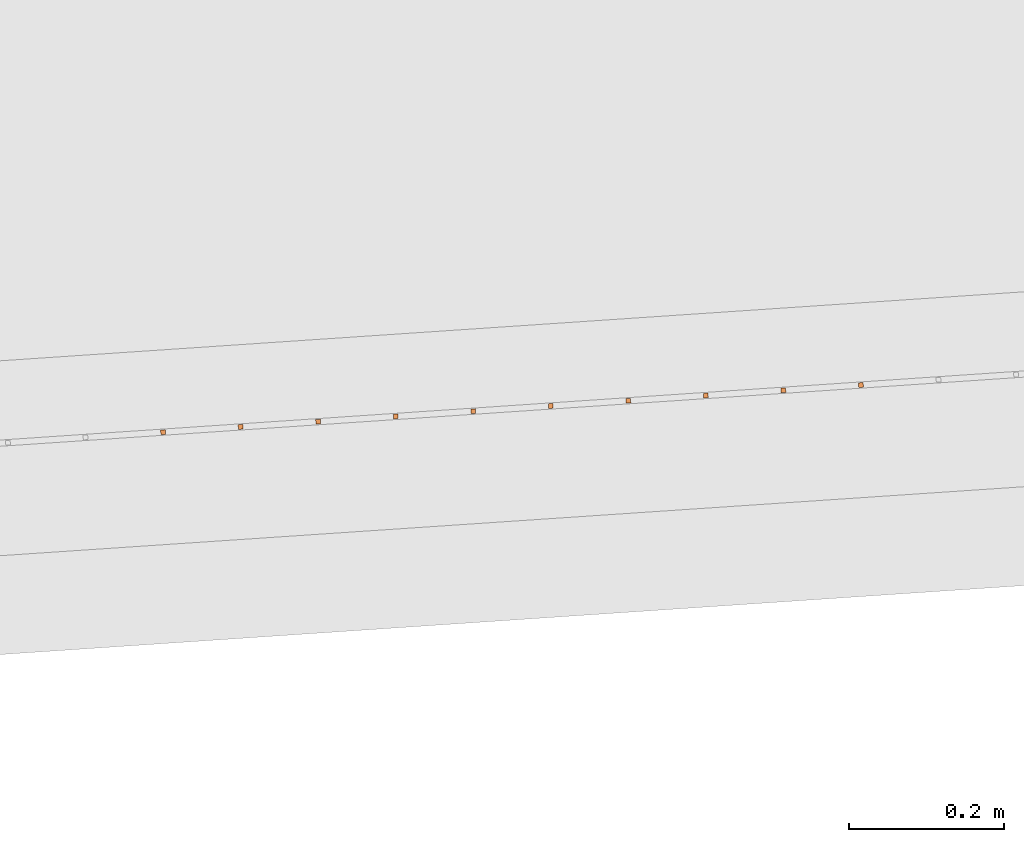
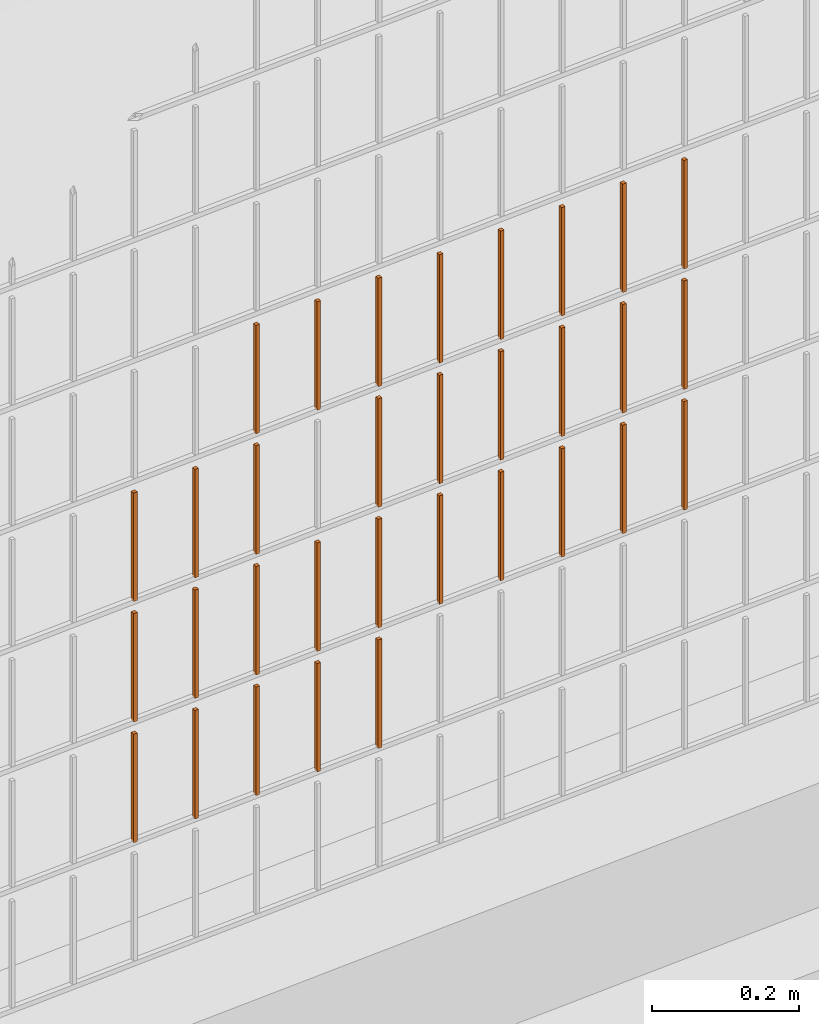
# One storey, part 331 of 1809: 32 proxies, 1 element without a shape of its own.
"""IFC2X3 building model written with IfcOpenShell, lengths in millimetres."""

from ifc_helpers import new_model, entity, si_unit, converted_unit, derived_unit, money_unit, direction, frame, origin_with_axes, place, context, subcontext, project, spatial, faceted_brep, source, transform, mapped, material, type_object, element, aggregate, save


model = new_model("IFC2X3")

# Units and contexts
model_context = context("Model", 3, precision=0.01, world=origin_with_axes(), true_north=direction((0.0, 1.0)))
body_context = subcontext(model_context, "Body", "Model", "MODEL_VIEW")
ifc_project = project(units=[si_unit("LENGTHUNIT", "METRE", prefix="MILLI"), si_unit("AREAUNIT", "SQUARE_METRE"), si_unit("VOLUMEUNIT", "CUBIC_METRE"), converted_unit("PLANEANGLEUNIT", "DEGREE", entity("IfcPlaneAngleMeasure", 0.0174532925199), si_unit("PLANEANGLEUNIT", "RADIAN"), dimensions=[0, 0, 0, 0, 0, 0, 0]), si_unit("SOLIDANGLEUNIT", "STERADIAN"), money_unit("EUR"), converted_unit("TIMEUNIT", "Year", entity("IfcTimeMeasure", 31556926.0), si_unit("TIMEUNIT", "SECOND"), dimensions=[0, 0, 1, 0, 0, 0, 0]), si_unit("MASSUNIT", "GRAM", prefix="KILO"), si_unit("THERMODYNAMICTEMPERATUREUNIT", "DEGREE_CELSIUS"), si_unit("LUMINOUSINTENSITYUNIT", "LUMEN"), si_unit("ENERGYUNIT", "JOULE", prefix="MEGA"), derived_unit("THERMALCONDUCTANCEUNIT", [(si_unit("POWERUNIT", "WATT"), 1), (si_unit("LENGTHUNIT", "METRE"), -1), (si_unit("THERMODYNAMICTEMPERATUREUNIT", "KELVIN"), -1)]), derived_unit("SPECIFICHEATCAPACITYUNIT", [(si_unit("ENERGYUNIT", "JOULE"), 1), (si_unit("MASSUNIT", "GRAM", prefix="KILO"), -1), (si_unit("THERMODYNAMICTEMPERATUREUNIT", "KELVIN"), -1)]), derived_unit("MASSDENSITYUNIT", [(si_unit("MASSUNIT", "GRAM", prefix="KILO"), 1), (si_unit("VOLUMEUNIT", "CUBIC_METRE"), -1)])], contexts=[model_context])

# Site, building, storey
site_placement = place(None, origin_with_axes())
site = spatial("IfcSite", under=ifc_project, at=site_placement, Name="Politse- ja Piirivalveameti ning Päästeameti ühishoone", CompositionType="ELEMENT")
building_placement = place(site_placement, origin_with_axes())
building = spatial("IfcBuilding", under=site, at=building_placement, Name="Politse- ja Piirivalveameti ning Päästeameti ühishoone", CompositionType="ELEMENT")
storey_placement = place(building_placement, origin_with_axes())
storey = spatial("IfcBuildingStorey", under=building, at=storey_placement, Name="Esimene korrus", CompositionType="ELEMENT", Elevation=0.0)

# Proxies
building_element_proxy_type_1 = type_object("IfcBuildingElementProxyType", Name="Railing Type", PredefinedType="NOTDEFINED")
proxy_1_placement = place(storey_placement, frame((89252.001212, -29183.4766571, 203.661247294), z_axis=(0.0, 0.0, 1.0), x_axis=(1.0, 0.0, 0.0)))
proxy_1 = element("IfcBuildingElementProxy", 1, at=proxy_1_placement, inside=storey, type_object=building_element_proxy_type_1, Name="PIIRDEAED")
ifc_material = material(Name="ET-03_Raud")
building_element_proxy_type_2 = type_object("IfcBuildingElementProxyType", Name="IfcBuildingElementProxy", PredefinedType="NOTDEFINED")
shared_shape_1 = source(origin_with_axes(), body_context, "Body", "Brep", [
    faceted_brep([(3.0, 3.0, -0.000752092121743), (-3.0, 3.0, -0.000752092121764), (-3.0, 3.0, 179.99926046), (3.0, 3.0, 179.99926046), (3.0, -3.0, 0.000752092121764), (-3.0, -3.0, 0.000752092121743), (-3.0, -3.0, 180.000764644), (3.0, -3.0, 180.000764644)], [[[0, 1, 2, 3]], [[0, 4, 5, 1]], [[1, 5, 6, 2]], [[3, 2, 6, 7]], [[4, 0, 3, 7]], [[5, 4, 7, 6]]]),
])
proxy_2_placement = place(proxy_1_placement, frame((-34049.1019761, -19597.6631034, 418.678914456), z_axis=(0.0, 0.0, 1.0), x_axis=(1.0, 0.0, 0.0)))
proxy_2 = element("IfcBuildingElementProxy", 2, at=proxy_2_placement, type_object=building_element_proxy_type_2, material=ifc_material, Name="BALUSTER - 001", context=body_context, shape_type="MappedRepresentation", body=[
    mapped(shared_shape_1, transform((0.0, 0.0, 0.0), x_axis=(-0.0673926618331, 0.997726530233, 0.0), y_axis=(-0.997726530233, -0.0673926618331, 0.0), z_axis=(0.0, 0.0, 1.0))),
])
proxy_3_placement = place(proxy_1_placement, frame((-34049.1019761, -19597.6631034, 618.678914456), z_axis=(0.0, 0.0, 1.0), x_axis=(1.0, 0.0, 0.0)))
proxy_3 = element("IfcBuildingElementProxy", 3, at=proxy_3_placement, type_object=building_element_proxy_type_2, material=ifc_material, Name="BALUSTER - 001", context=body_context, shape_type="MappedRepresentation", body=[
    mapped(shared_shape_1, transform((0.0, 0.0, 0.0), x_axis=(-0.0673926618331, 0.997726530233, 0.0), y_axis=(-0.997726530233, -0.0673926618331, 0.0), z_axis=(0.0, 0.0, 1.0))),
])
shared_shape_2 = source(origin_with_axes(), body_context, "Body", "Brep", [
    faceted_brep([(3.0, 3.0, -0.000752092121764), (-3.0, 3.0, -0.000752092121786), (-3.0, 3.0, 179.99926046), (3.0, 3.0, 179.99926046), (3.0, -3.0, 0.000752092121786), (-3.0, -3.0, 0.000752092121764), (-3.0, -3.0, 180.000764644), (3.0, -3.0, 180.000764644)], [[[0, 1, 2, 3]], [[0, 4, 5, 1]], [[1, 5, 6, 2]], [[3, 2, 6, 7]], [[4, 0, 3, 7]], [[5, 4, 7, 6]]]),
])
proxy_4_placement = place(proxy_1_placement, frame((-33650.011364, -19570.7060387, 418.779193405), z_axis=(0.0, 0.0, 1.0), x_axis=(1.0, 0.0, 0.0)))
proxy_4 = element("IfcBuildingElementProxy", 4, at=proxy_4_placement, type_object=building_element_proxy_type_2, material=ifc_material, Name="BALUSTER - 001", context=body_context, shape_type="MappedRepresentation", body=[
    mapped(shared_shape_2, transform((0.0, 0.0, 0.0), x_axis=(-0.0673926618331, 0.997726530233, 0.0), y_axis=(-0.997726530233, -0.0673926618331, 0.0), z_axis=(0.0, 0.0, 1.0))),
])
shared_shape_3 = source(origin_with_axes(), body_context, "Body", "Brep", [
    faceted_brep([(3.0, 3.0, -0.000752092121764), (-3.0, 3.0, -0.000752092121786), (-3.0, 3.0, 179.99926046), (3.0, 3.0, 179.99926046), (3.0, -3.0, 0.000752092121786), (-3.0, -3.0, 0.000752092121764), (-3.0, -3.0, 180.000764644), (3.0, -3.0, 180.000764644)], [[[0, 1, 2, 3]], [[0, 4, 5, 1]], [[1, 5, 6, 2]], [[3, 2, 6, 7]], [[4, 0, 3, 7]], [[5, 4, 7, 6]]]),
])
proxy_5_placement = place(proxy_1_placement, frame((-33650.011364, -19570.7060387, 618.779193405), z_axis=(0.0, 0.0, 1.0), x_axis=(1.0, 0.0, 0.0)))
proxy_5 = element("IfcBuildingElementProxy", 5, at=proxy_5_placement, type_object=building_element_proxy_type_2, material=ifc_material, Name="BALUSTER - 001", context=body_context, shape_type="MappedRepresentation", body=[
    mapped(shared_shape_3, transform((0.0, 0.0, 0.0), x_axis=(-0.0673926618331, 0.997726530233, 0.0), y_axis=(-0.997726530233, -0.0673926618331, 0.0), z_axis=(0.0, 0.0, 1.0))),
])
shared_shape_4 = source(origin_with_axes(), body_context, "Body", "Brep", [
    faceted_brep([(3.0, 3.0, -0.000752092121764), (-3.0, 3.0, -0.000752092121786), (-3.0, 3.0, 179.99926046), (3.0, 3.0, 179.99926046), (3.0, -3.0, 0.000752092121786), (-3.0, -3.0, 0.000752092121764), (-3.0, -3.0, 180.000764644), (3.0, -3.0, 180.000764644)], [[[0, 1, 2, 3]], [[0, 4, 5, 1]], [[1, 5, 6, 2]], [[3, 2, 6, 7]], [[4, 0, 3, 7]], [[5, 4, 7, 6]]]),
])
proxy_6_placement = place(proxy_1_placement, frame((-33650.011364, -19570.7060387, 818.779193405), z_axis=(0.0, 0.0, 1.0), x_axis=(1.0, 0.0, 0.0)))
proxy_6 = element("IfcBuildingElementProxy", 6, at=proxy_6_placement, type_object=building_element_proxy_type_2, material=ifc_material, Name="BALUSTER - 001", context=body_context, shape_type="MappedRepresentation", body=[
    mapped(shared_shape_4, transform((0.0, 0.0, 0.0), x_axis=(-0.0673926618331, 0.997726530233, 0.0), y_axis=(-0.997726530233, -0.0673926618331, 0.0), z_axis=(0.0, 0.0, 1.0))),
])
shared_shape_5 = source(origin_with_axes(), body_context, "Body", "Brep", [
    faceted_brep([(3.0, 3.0, -0.000752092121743), (-3.0, 3.0, -0.000752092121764), (-3.0, 3.0, 179.99926046), (3.0, 3.0, 179.99926046), (3.0, -3.0, 0.000752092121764), (-3.0, -3.0, 0.000752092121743), (-3.0, -3.0, 180.000764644), (3.0, -3.0, 180.000764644)], [[[0, 1, 2, 3]], [[0, 4, 5, 1]], [[1, 5, 6, 2]], [[3, 2, 6, 7]], [[4, 0, 3, 7]], [[5, 4, 7, 6]]]),
])
proxy_7_placement = place(proxy_1_placement, frame((-34049.1019761, -19597.6631034, 218.678914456), z_axis=(0.0, 0.0, 1.0), x_axis=(1.0, 0.0, 0.0)))
proxy_7 = element("IfcBuildingElementProxy", 7, at=proxy_7_placement, type_object=building_element_proxy_type_2, material=ifc_material, Name="BALUSTER - 001", context=body_context, shape_type="MappedRepresentation", body=[
    mapped(shared_shape_5, transform((0.0, 0.0, 0.0), x_axis=(-0.0673926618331, 0.997726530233, 0.0), y_axis=(-0.997726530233, -0.0673926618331, 0.0), z_axis=(0.0, 0.0, 1.0))),
])
shared_shape_6 = source(origin_with_axes(), body_context, "Body", "Brep", [
    faceted_brep([(3.0, 3.0, -0.000752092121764), (-3.0, 3.0, -0.000752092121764), (-3.0, 3.0, 179.99926046), (3.0, 3.0, 179.99926046), (3.0, -3.0, 0.000752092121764), (-3.0, -3.0, 0.000752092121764), (-3.0, -3.0, 180.000764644), (3.0, -3.0, 180.000764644)], [[[0, 1, 2, 3]], [[0, 4, 5, 1]], [[1, 5, 6, 2]], [[3, 2, 6, 7]], [[4, 0, 3, 7]], [[5, 4, 7, 6]]]),
])
proxy_8_placement = place(proxy_1_placement, frame((-33949.3293231, -19590.9238372, 618.703984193), z_axis=(0.0, 0.0, 1.0), x_axis=(1.0, 0.0, 0.0)))
proxy_8 = element("IfcBuildingElementProxy", 8, at=proxy_8_placement, type_object=building_element_proxy_type_2, material=ifc_material, Name="BALUSTER - 001", context=body_context, shape_type="MappedRepresentation", body=[
    mapped(shared_shape_6, transform((0.0, 0.0, 0.0), x_axis=(-0.0673926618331, 0.997726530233, 0.0), y_axis=(-0.997726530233, -0.0673926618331, 0.0), z_axis=(0.0, 0.0, 1.0))),
])
shared_shape_7 = source(origin_with_axes(), body_context, "Body", "Brep", [
    faceted_brep([(3.0, 3.0, -0.000752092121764), (-3.0, 3.0, -0.000752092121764), (-3.0, 3.0, 179.99926046), (3.0, 3.0, 179.99926046), (3.0, -3.0, 0.000752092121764), (-3.0, -3.0, 0.000752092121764), (-3.0, -3.0, 180.000764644), (3.0, -3.0, 180.000764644)], [[[0, 1, 2, 3]], [[0, 4, 5, 1]], [[1, 5, 6, 2]], [[3, 2, 6, 7]], [[4, 0, 3, 7]], [[5, 4, 7, 6]]]),
])
proxy_9_placement = place(proxy_1_placement, frame((-33849.5566701, -19584.1845711, 818.72905393), z_axis=(0.0, 0.0, 1.0), x_axis=(1.0, 0.0, 0.0)))
proxy_9 = element("IfcBuildingElementProxy", 9, at=proxy_9_placement, type_object=building_element_proxy_type_2, material=ifc_material, Name="BALUSTER - 001", context=body_context, shape_type="MappedRepresentation", body=[
    mapped(shared_shape_7, transform((0.0, 0.0, 0.0), x_axis=(-0.0673926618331, 0.997726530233, 0.0), y_axis=(-0.997726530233, -0.0673926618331, 0.0), z_axis=(0.0, 0.0, 1.0))),
])
shared_shape_8 = source(origin_with_axes(), body_context, "Body", "Brep", [
    faceted_brep([(3.0, 3.0, -0.000752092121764), (-3.0, 3.0, -0.000752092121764), (-3.0, 3.0, 179.99926046), (3.0, 3.0, 179.99926046), (3.0, -3.0, 0.000752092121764), (-3.0, -3.0, 0.000752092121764), (-3.0, -3.0, 180.000764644), (3.0, -3.0, 180.000764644)], [[[0, 1, 2, 3]], [[0, 4, 5, 1]], [[1, 5, 6, 2]], [[3, 2, 6, 7]], [[4, 0, 3, 7]], [[5, 4, 7, 6]]]),
])
proxy_10_placement = place(proxy_1_placement, frame((-33450.466058, -19557.2275063, 618.82933288), z_axis=(0.0, 0.0, 1.0), x_axis=(1.0, 0.0, 0.0)))
proxy_10 = element("IfcBuildingElementProxy", 10, at=proxy_10_placement, type_object=building_element_proxy_type_2, material=ifc_material, Name="BALUSTER - 001", context=body_context, shape_type="MappedRepresentation", body=[
    mapped(shared_shape_8, transform((0.0, 0.0, 0.0), x_axis=(-0.0673926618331, 0.997726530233, 0.0), y_axis=(-0.997726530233, -0.0673926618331, 0.0), z_axis=(0.0, 0.0, 1.0))),
])
shared_shape_9 = source(origin_with_axes(), body_context, "Body", "Brep", [
    faceted_brep([(3.0, 3.0, -0.000752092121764), (-3.0, 3.0, -0.000752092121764), (-3.0, 3.0, 179.99926046), (3.0, 3.0, 179.99926046), (3.0, -3.0, 0.000752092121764), (-3.0, -3.0, 0.000752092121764), (-3.0, -3.0, 180.000764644), (3.0, -3.0, 180.000764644)], [[[0, 1, 2, 3]], [[0, 4, 5, 1]], [[1, 5, 6, 2]], [[3, 2, 6, 7]], [[4, 0, 3, 7]], [[5, 4, 7, 6]]]),
])
proxy_11_placement = place(proxy_1_placement, frame((-33949.3293231, -19590.9238372, 818.703984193), z_axis=(0.0, 0.0, 1.0), x_axis=(1.0, 0.0, 0.0)))
proxy_11 = element("IfcBuildingElementProxy", 11, at=proxy_11_placement, type_object=building_element_proxy_type_2, material=ifc_material, Name="BALUSTER - 001", context=body_context, shape_type="MappedRepresentation", body=[
    mapped(shared_shape_9, transform((0.0, 0.0, 0.0), x_axis=(-0.0673926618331, 0.997726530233, 0.0), y_axis=(-0.997726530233, -0.0673926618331, 0.0), z_axis=(0.0, 0.0, 1.0))),
])
shared_shape_10 = source(origin_with_axes(), body_context, "Body", "Brep", [
    faceted_brep([(3.0, 3.0, -0.000752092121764), (-3.0, 3.0, -0.000752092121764), (-3.0, 3.0, 179.99926046), (3.0, 3.0, 179.99926046), (3.0, -3.0, 0.000752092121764), (-3.0, -3.0, 0.000752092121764), (-3.0, -3.0, 180.000764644), (3.0, -3.0, 180.000764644)], [[[0, 1, 2, 3]], [[0, 4, 5, 1]], [[1, 5, 6, 2]], [[3, 2, 6, 7]], [[4, 0, 3, 7]], [[5, 4, 7, 6]]]),
])
proxy_12_placement = place(proxy_1_placement, frame((-33749.7840171, -19577.4453049, 418.754123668), z_axis=(0.0, 0.0, 1.0), x_axis=(1.0, 0.0, 0.0)))
proxy_12 = element("IfcBuildingElementProxy", 12, at=proxy_12_placement, type_object=building_element_proxy_type_2, material=ifc_material, Name="BALUSTER - 001", context=body_context, shape_type="MappedRepresentation", body=[
    mapped(shared_shape_10, transform((0.0, 0.0, 0.0), x_axis=(-0.0673926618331, 0.997726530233, 0.0), y_axis=(-0.997726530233, -0.0673926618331, 0.0), z_axis=(0.0, 0.0, 1.0))),
])
shared_shape_11 = source(origin_with_axes(), body_context, "Body", "Brep", [
    faceted_brep([(3.0, 3.0, -0.000752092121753), (-3.0, 3.0, -0.000752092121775), (-3.0, 3.0, 179.99926046), (3.0, 3.0, 179.99926046), (3.0, -3.0, 0.000752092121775), (-3.0, -3.0, 0.000752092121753), (-3.0, -3.0, 180.000764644), (3.0, -3.0, 180.000764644)], [[[0, 1, 2, 3]], [[0, 4, 5, 1]], [[1, 5, 6, 2]], [[3, 2, 6, 7]], [[4, 0, 3, 7]], [[5, 4, 7, 6]]]),
])
proxy_13_placement = place(proxy_1_placement, frame((-34148.8746292, -19604.4023696, 218.653844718), z_axis=(0.0, 0.0, 1.0), x_axis=(1.0, 0.0, 0.0)))
proxy_13 = element("IfcBuildingElementProxy", 13, at=proxy_13_placement, type_object=building_element_proxy_type_2, material=ifc_material, Name="BALUSTER - 001", context=body_context, shape_type="MappedRepresentation", body=[
    mapped(shared_shape_11, transform((0.0, 0.0, 0.0), x_axis=(-0.0673926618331, 0.997726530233, 0.0), y_axis=(-0.997726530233, -0.0673926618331, 0.0), z_axis=(0.0, 0.0, 1.0))),
])
proxy_14_placement = place(proxy_1_placement, frame((-33350.693405, -19550.4882401, 418.854402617), z_axis=(0.0, 0.0, 1.0), x_axis=(1.0, 0.0, 0.0)))
proxy_14 = element("IfcBuildingElementProxy", 14, at=proxy_14_placement, type_object=building_element_proxy_type_2, material=ifc_material, Name="BALUSTER - 001", context=body_context, shape_type="MappedRepresentation", body=[
    mapped(shared_shape_11, transform((0.0, 0.0, 0.0), x_axis=(-0.0673926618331, 0.997726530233, 0.0), y_axis=(-0.997726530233, -0.0673926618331, 0.0), z_axis=(0.0, 0.0, 1.0))),
])
proxy_15_placement = place(proxy_1_placement, frame((-34148.8746292, -19604.4023696, 418.653844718), z_axis=(0.0, 0.0, 1.0), x_axis=(1.0, 0.0, 0.0)))
proxy_15 = element("IfcBuildingElementProxy", 15, at=proxy_15_placement, type_object=building_element_proxy_type_2, material=ifc_material, Name="BALUSTER - 001", context=body_context, shape_type="MappedRepresentation", body=[
    mapped(shared_shape_11, transform((0.0, 0.0, 0.0), x_axis=(-0.0673926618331, 0.997726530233, 0.0), y_axis=(-0.997726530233, -0.0673926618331, 0.0), z_axis=(0.0, 0.0, 1.0))),
])
shared_shape_12 = source(origin_with_axes(), body_context, "Body", "Brep", [
    faceted_brep([(3.0, 3.0, -0.000752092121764), (-3.0, 3.0, -0.000752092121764), (-3.0, 3.0, 179.99926046), (3.0, 3.0, 179.99926046), (3.0, -3.0, 0.000752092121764), (-3.0, -3.0, 0.000752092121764), (-3.0, -3.0, 180.000764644), (3.0, -3.0, 180.000764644)], [[[0, 1, 2, 3]], [[0, 4, 5, 1]], [[1, 5, 6, 2]], [[3, 2, 6, 7]], [[4, 0, 3, 7]], [[5, 4, 7, 6]]]),
])
proxy_16_placement = place(proxy_1_placement, frame((-33450.466058, -19557.2275063, 418.82933288), z_axis=(0.0, 0.0, 1.0), x_axis=(1.0, 0.0, 0.0)))
proxy_16 = element("IfcBuildingElementProxy", 16, at=proxy_16_placement, type_object=building_element_proxy_type_2, material=ifc_material, Name="BALUSTER - 001", context=body_context, shape_type="MappedRepresentation", body=[
    mapped(shared_shape_12, transform((0.0, 0.0, 0.0), x_axis=(-0.0673926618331, 0.997726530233, 0.0), y_axis=(-0.997726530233, -0.0673926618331, 0.0), z_axis=(0.0, 0.0, 1.0))),
])
shared_shape_13 = source(origin_with_axes(), body_context, "Body", "Brep", [
    faceted_brep([(3.0, 3.0, -0.000752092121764), (-3.0, 3.0, -0.000752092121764), (-3.0, 3.0, 179.99926046), (3.0, 3.0, 179.99926046), (3.0, -3.0, 0.000752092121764), (-3.0, -3.0, 0.000752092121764), (-3.0, -3.0, 180.000764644), (3.0, -3.0, 180.000764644)], [[[0, 1, 2, 3]], [[0, 4, 5, 1]], [[1, 5, 6, 2]], [[3, 2, 6, 7]], [[4, 0, 3, 7]], [[5, 4, 7, 6]]]),
])
proxy_17_placement = place(proxy_1_placement, frame((-33949.3293231, -19590.9238372, 218.703984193), z_axis=(0.0, 0.0, 1.0), x_axis=(1.0, 0.0, 0.0)))
proxy_17 = element("IfcBuildingElementProxy", 17, at=proxy_17_placement, type_object=building_element_proxy_type_2, material=ifc_material, Name="BALUSTER - 001", context=body_context, shape_type="MappedRepresentation", body=[
    mapped(shared_shape_13, transform((0.0, 0.0, 0.0), x_axis=(-0.0673926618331, 0.997726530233, 0.0), y_axis=(-0.997726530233, -0.0673926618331, 0.0), z_axis=(0.0, 0.0, 1.0))),
])
proxy_18_placement = place(proxy_1_placement, frame((-33949.3293231, -19590.9238372, 418.703984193), z_axis=(0.0, 0.0, 1.0), x_axis=(1.0, 0.0, 0.0)))
proxy_18 = element("IfcBuildingElementProxy", 18, at=proxy_18_placement, type_object=building_element_proxy_type_2, material=ifc_material, Name="BALUSTER - 001", context=body_context, shape_type="MappedRepresentation", body=[
    mapped(shared_shape_13, transform((0.0, 0.0, 0.0), x_axis=(-0.0673926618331, 0.997726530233, 0.0), y_axis=(-0.997726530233, -0.0673926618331, 0.0), z_axis=(0.0, 0.0, 1.0))),
])
shared_shape_14 = source(origin_with_axes(), body_context, "Body", "Brep", [
    faceted_brep([(3.0, 3.0, -0.000752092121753), (-3.0, 3.0, -0.000752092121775), (-3.0, 3.0, 179.99926046), (3.0, 3.0, 179.99926046), (3.0, -3.0, 0.000752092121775), (-3.0, -3.0, 0.000752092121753), (-3.0, -3.0, 180.000764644), (3.0, -3.0, 180.000764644)], [[[0, 1, 2, 3]], [[0, 4, 5, 1]], [[1, 5, 6, 2]], [[3, 2, 6, 7]], [[4, 0, 3, 7]], [[5, 4, 7, 6]]]),
])
proxy_19_placement = place(proxy_1_placement, frame((-33350.693405, -19550.4882401, 618.854402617), z_axis=(0.0, 0.0, 1.0), x_axis=(1.0, 0.0, 0.0)))
proxy_19 = element("IfcBuildingElementProxy", 19, at=proxy_19_placement, type_object=building_element_proxy_type_2, material=ifc_material, Name="BALUSTER - 001", context=body_context, shape_type="MappedRepresentation", body=[
    mapped(shared_shape_14, transform((0.0, 0.0, 0.0), x_axis=(-0.0673926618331, 0.997726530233, 0.0), y_axis=(-0.997726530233, -0.0673926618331, 0.0), z_axis=(0.0, 0.0, 1.0))),
])
shared_shape_15 = source(origin_with_axes(), body_context, "Body", "Brep", [
    faceted_brep([(3.0, 3.0, -0.000752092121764), (-3.0, 3.0, -0.000752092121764), (-3.0, 3.0, 179.99926046), (3.0, 3.0, 179.99926046), (3.0, -3.0, 0.000752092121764), (-3.0, -3.0, 0.000752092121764), (-3.0, -3.0, 180.000764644), (3.0, -3.0, 180.000764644)], [[[0, 1, 2, 3]], [[0, 4, 5, 1]], [[1, 5, 6, 2]], [[3, 2, 6, 7]], [[4, 0, 3, 7]], [[5, 4, 7, 6]]]),
])
proxy_20_placement = place(proxy_1_placement, frame((-33749.7840171, -19577.4453049, 618.754123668), z_axis=(0.0, 0.0, 1.0), x_axis=(1.0, 0.0, 0.0)))
proxy_20 = element("IfcBuildingElementProxy", 20, at=proxy_20_placement, type_object=building_element_proxy_type_2, material=ifc_material, Name="BALUSTER - 001", context=body_context, shape_type="MappedRepresentation", body=[
    mapped(shared_shape_15, transform((0.0, 0.0, 0.0), x_axis=(-0.0673926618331, 0.997726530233, 0.0), y_axis=(-0.997726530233, -0.0673926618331, 0.0), z_axis=(0.0, 0.0, 1.0))),
])
shared_shape_16 = source(origin_with_axes(), body_context, "Body", "Brep", [
    faceted_brep([(3.0, 3.0, -0.000752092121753), (-3.0, 3.0, -0.000752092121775), (-3.0, 3.0, 179.99926046), (3.0, 3.0, 179.99926046), (3.0, -3.0, 0.000752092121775), (-3.0, -3.0, 0.000752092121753), (-3.0, -3.0, 180.000764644), (3.0, -3.0, 180.000764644)], [[[0, 1, 2, 3]], [[0, 4, 5, 1]], [[1, 5, 6, 2]], [[3, 2, 6, 7]], [[4, 0, 3, 7]], [[5, 4, 7, 6]]]),
])
proxy_21_placement = place(proxy_1_placement, frame((-34148.8746292, -19604.4023696, 618.653844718), z_axis=(0.0, 0.0, 1.0), x_axis=(1.0, 0.0, 0.0)))
proxy_21 = element("IfcBuildingElementProxy", 21, at=proxy_21_placement, type_object=building_element_proxy_type_2, material=ifc_material, Name="BALUSTER - 001", context=body_context, shape_type="MappedRepresentation", body=[
    mapped(shared_shape_16, transform((0.0, 0.0, 0.0), x_axis=(-0.0673926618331, 0.997726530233, 0.0), y_axis=(-0.997726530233, -0.0673926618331, 0.0), z_axis=(0.0, 0.0, 1.0))),
])
shared_shape_17 = source(origin_with_axes(), body_context, "Body", "Brep", [
    faceted_brep([(3.0, 3.0, -0.000752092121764), (-3.0, 3.0, -0.000752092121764), (-3.0, 3.0, 179.99926046), (3.0, 3.0, 179.99926046), (3.0, -3.0, 0.000752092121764), (-3.0, -3.0, 0.000752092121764), (-3.0, -3.0, 180.000764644), (3.0, -3.0, 180.000764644)], [[[0, 1, 2, 3]], [[0, 4, 5, 1]], [[1, 5, 6, 2]], [[3, 2, 6, 7]], [[4, 0, 3, 7]], [[5, 4, 7, 6]]]),
])
proxy_22_placement = place(proxy_1_placement, frame((-33749.7840171, -19577.4453049, 818.754123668), z_axis=(0.0, 0.0, 1.0), x_axis=(1.0, 0.0, 0.0)))
proxy_22 = element("IfcBuildingElementProxy", 22, at=proxy_22_placement, type_object=building_element_proxy_type_2, material=ifc_material, Name="BALUSTER - 001", context=body_context, shape_type="MappedRepresentation", body=[
    mapped(shared_shape_17, transform((0.0, 0.0, 0.0), x_axis=(-0.0673926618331, 0.997726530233, 0.0), y_axis=(-0.997726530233, -0.0673926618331, 0.0), z_axis=(0.0, 0.0, 1.0))),
])
shared_shape_18 = source(origin_with_axes(), body_context, "Body", "Brep", [
    faceted_brep([(3.0, 3.0, -0.000752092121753), (-3.0, 3.0, -0.000752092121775), (-3.0, 3.0, 179.99926046), (3.0, 3.0, 179.99926046), (3.0, -3.0, 0.000752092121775), (-3.0, -3.0, 0.000752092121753), (-3.0, -3.0, 180.000764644), (3.0, -3.0, 180.000764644)], [[[0, 1, 2, 3]], [[0, 4, 5, 1]], [[1, 5, 6, 2]], [[3, 2, 6, 7]], [[4, 0, 3, 7]], [[5, 4, 7, 6]]]),
])
proxy_23_placement = place(proxy_1_placement, frame((-33350.693405, -19550.4882401, 818.854402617), z_axis=(0.0, 0.0, 1.0), x_axis=(1.0, 0.0, 0.0)))
proxy_23 = element("IfcBuildingElementProxy", 23, at=proxy_23_placement, type_object=building_element_proxy_type_2, material=ifc_material, Name="BALUSTER - 001", context=body_context, shape_type="MappedRepresentation", body=[
    mapped(shared_shape_18, transform((0.0, 0.0, 0.0), x_axis=(-0.0673926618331, 0.997726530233, 0.0), y_axis=(-0.997726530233, -0.0673926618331, 0.0), z_axis=(0.0, 0.0, 1.0))),
])
shared_shape_19 = source(origin_with_axes(), body_context, "Body", "Brep", [
    faceted_brep([(3.0, 3.0, -0.000752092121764), (-3.0, 3.0, -0.000752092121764), (-3.0, 3.0, 179.99926046), (3.0, 3.0, 179.99926046), (3.0, -3.0, 0.000752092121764), (-3.0, -3.0, 0.000752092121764), (-3.0, -3.0, 180.000764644), (3.0, -3.0, 180.000764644)], [[[0, 1, 2, 3]], [[0, 4, 5, 1]], [[1, 5, 6, 2]], [[3, 2, 6, 7]], [[4, 0, 3, 7]], [[5, 4, 7, 6]]]),
])
proxy_24_placement = place(proxy_1_placement, frame((-33450.466058, -19557.2275063, 818.82933288), z_axis=(0.0, 0.0, 1.0), x_axis=(1.0, 0.0, 0.0)))
proxy_24 = element("IfcBuildingElementProxy", 24, at=proxy_24_placement, type_object=building_element_proxy_type_2, material=ifc_material, Name="BALUSTER - 001", context=body_context, shape_type="MappedRepresentation", body=[
    mapped(shared_shape_19, transform((0.0, 0.0, 0.0), x_axis=(-0.0673926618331, 0.997726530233, 0.0), y_axis=(-0.997726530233, -0.0673926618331, 0.0), z_axis=(0.0, 0.0, 1.0))),
])
shared_shape_20 = source(origin_with_axes(), body_context, "Body", "Brep", [
    faceted_brep([(3.0, 3.0, -0.000752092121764), (-3.0, 3.0, -0.000752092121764), (-3.0, 3.0, 179.99926046), (3.0, 3.0, 179.99926046), (3.0, -3.0, 0.000752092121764), (-3.0, -3.0, 0.000752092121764), (-3.0, -3.0, 180.000764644), (3.0, -3.0, 180.000764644)], [[[0, 1, 2, 3]], [[0, 4, 5, 1]], [[1, 5, 6, 2]], [[3, 2, 6, 7]], [[4, 0, 3, 7]], [[5, 4, 7, 6]]]),
])
proxy_25_placement = place(proxy_1_placement, frame((-33250.9207519, -19543.748974, 418.879472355), z_axis=(0.0, 0.0, 1.0), x_axis=(1.0, 0.0, 0.0)))
proxy_25 = element("IfcBuildingElementProxy", 25, at=proxy_25_placement, type_object=building_element_proxy_type_2, material=ifc_material, Name="BALUSTER - 001", context=body_context, shape_type="MappedRepresentation", body=[
    mapped(shared_shape_20, transform((0.0, 0.0, 0.0), x_axis=(-0.0673926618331, 0.997726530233, 0.0), y_axis=(-0.997726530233, -0.0673926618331, 0.0), z_axis=(0.0, 0.0, 1.0))),
])
shared_shape_21 = source(origin_with_axes(), body_context, "Body", "Brep", [
    faceted_brep([(3.0, 3.0, -0.000752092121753), (-3.0, 3.0, -0.000752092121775), (-3.0, 3.0, 179.99926046), (3.0, 3.0, 179.99926046), (3.0, -3.0, 0.000752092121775), (-3.0, -3.0, 0.000752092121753), (-3.0, -3.0, 180.000764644), (3.0, -3.0, 180.000764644)], [[[0, 1, 2, 3]], [[0, 4, 5, 1]], [[1, 5, 6, 2]], [[3, 2, 6, 7]], [[4, 0, 3, 7]], [[5, 4, 7, 6]]]),
])
proxy_26_placement = place(proxy_1_placement, frame((-33550.238711, -19563.9667725, 418.804263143), z_axis=(0.0, 0.0, 1.0), x_axis=(1.0, 0.0, 0.0)))
proxy_26 = element("IfcBuildingElementProxy", 26, at=proxy_26_placement, type_object=building_element_proxy_type_2, material=ifc_material, Name="BALUSTER - 001", context=body_context, shape_type="MappedRepresentation", body=[
    mapped(shared_shape_21, transform((0.0, 0.0, 0.0), x_axis=(-0.0673926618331, 0.997726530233, 0.0), y_axis=(-0.997726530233, -0.0673926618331, 0.0), z_axis=(0.0, 0.0, 1.0))),
])
shared_shape_22 = source(origin_with_axes(), body_context, "Body", "Brep", [
    faceted_brep([(3.0, 3.0, -0.000752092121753), (-3.0, 3.0, -0.000752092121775), (-3.0, 3.0, 179.99926046), (3.0, 3.0, 179.99926046), (3.0, -3.0, 0.000752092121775), (-3.0, -3.0, 0.000752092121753), (-3.0, -3.0, 180.000764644), (3.0, -3.0, 180.000764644)], [[[0, 1, 2, 3]], [[0, 4, 5, 1]], [[1, 5, 6, 2]], [[3, 2, 6, 7]], [[4, 0, 3, 7]], [[5, 4, 7, 6]]]),
])
proxy_27_placement = place(proxy_1_placement, frame((-33550.238711, -19563.9667725, 818.804263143), z_axis=(0.0, 0.0, 1.0), x_axis=(1.0, 0.0, 0.0)))
proxy_27 = element("IfcBuildingElementProxy", 27, at=proxy_27_placement, type_object=building_element_proxy_type_2, material=ifc_material, Name="BALUSTER - 001", context=body_context, shape_type="MappedRepresentation", body=[
    mapped(shared_shape_22, transform((0.0, 0.0, 0.0), x_axis=(-0.0673926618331, 0.997726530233, 0.0), y_axis=(-0.997726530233, -0.0673926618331, 0.0), z_axis=(0.0, 0.0, 1.0))),
])
shared_shape_23 = source(origin_with_axes(), body_context, "Body", "Brep", [
    faceted_brep([(3.0, 3.0, -0.000752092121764), (-3.0, 3.0, -0.000752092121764), (-3.0, 3.0, 179.99926046), (3.0, 3.0, 179.99926046), (3.0, -3.0, 0.000752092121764), (-3.0, -3.0, 0.000752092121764), (-3.0, -3.0, 180.000764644), (3.0, -3.0, 180.000764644)], [[[0, 1, 2, 3]], [[0, 4, 5, 1]], [[1, 5, 6, 2]], [[3, 2, 6, 7]], [[4, 0, 3, 7]], [[5, 4, 7, 6]]]),
])
proxy_28_placement = place(proxy_1_placement, frame((-33250.9207519, -19543.748974, 818.879472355), z_axis=(0.0, 0.0, 1.0), x_axis=(1.0, 0.0, 0.0)))
proxy_28 = element("IfcBuildingElementProxy", 28, at=proxy_28_placement, type_object=building_element_proxy_type_2, material=ifc_material, Name="BALUSTER - 001", context=body_context, shape_type="MappedRepresentation", body=[
    mapped(shared_shape_23, transform((0.0, 0.0, 0.0), x_axis=(-0.0673926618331, 0.997726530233, 0.0), y_axis=(-0.997726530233, -0.0673926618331, 0.0), z_axis=(0.0, 0.0, 1.0))),
])
shared_shape_24 = source(origin_with_axes(), body_context, "Body", "Brep", [
    faceted_brep([(3.0, 3.0, -0.000752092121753), (-3.0, 3.0, -0.000752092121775), (-3.0, 3.0, 179.99926046), (3.0, 3.0, 179.99926046), (3.0, -3.0, 0.000752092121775), (-3.0, -3.0, 0.000752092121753), (-3.0, -3.0, 180.000764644), (3.0, -3.0, 180.000764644)], [[[0, 1, 2, 3]], [[0, 4, 5, 1]], [[1, 5, 6, 2]], [[3, 2, 6, 7]], [[4, 0, 3, 7]], [[5, 4, 7, 6]]]),
])
proxy_29_placement = place(proxy_1_placement, frame((-33550.238711, -19563.9667725, 618.804263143), z_axis=(0.0, 0.0, 1.0), x_axis=(1.0, 0.0, 0.0)))
proxy_29 = element("IfcBuildingElementProxy", 29, at=proxy_29_placement, type_object=building_element_proxy_type_2, material=ifc_material, Name="BALUSTER - 001", context=body_context, shape_type="MappedRepresentation", body=[
    mapped(shared_shape_24, transform((0.0, 0.0, 0.0), x_axis=(-0.0673926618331, 0.997726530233, 0.0), y_axis=(-0.997726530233, -0.0673926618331, 0.0), z_axis=(0.0, 0.0, 1.0))),
])
shared_shape_25 = source(origin_with_axes(), body_context, "Body", "Brep", [
    faceted_brep([(3.0, 3.0, -0.000752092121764), (-3.0, 3.0, -0.000752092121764), (-3.0, 3.0, 179.99926046), (3.0, 3.0, 179.99926046), (3.0, -3.0, 0.000752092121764), (-3.0, -3.0, 0.000752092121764), (-3.0, -3.0, 180.000764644), (3.0, -3.0, 180.000764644)], [[[0, 1, 2, 3]], [[0, 4, 5, 1]], [[1, 5, 6, 2]], [[3, 2, 6, 7]], [[4, 0, 3, 7]], [[5, 4, 7, 6]]]),
])
proxy_30_placement = place(proxy_1_placement, frame((-33250.9207519, -19543.748974, 618.879472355), z_axis=(0.0, 0.0, 1.0), x_axis=(1.0, 0.0, 0.0)))
proxy_30 = element("IfcBuildingElementProxy", 30, at=proxy_30_placement, type_object=building_element_proxy_type_2, material=ifc_material, Name="BALUSTER - 001", context=body_context, shape_type="MappedRepresentation", body=[
    mapped(shared_shape_25, transform((0.0, 0.0, 0.0), x_axis=(-0.0673926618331, 0.997726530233, 0.0), y_axis=(-0.997726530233, -0.0673926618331, 0.0), z_axis=(0.0, 0.0, 1.0))),
])
shared_shape_26 = source(origin_with_axes(), body_context, "Body", "Brep", [
    faceted_brep([(3.0, 3.0, -0.000752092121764), (-3.0, 3.0, -0.000752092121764), (-3.0, 3.0, 179.99926046), (3.0, 3.0, 179.99926046), (3.0, -3.0, 0.000752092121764), (-3.0, -3.0, 0.000752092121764), (-3.0, -3.0, 180.000764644), (3.0, -3.0, 180.000764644)], [[[0, 1, 2, 3]], [[0, 4, 5, 1]], [[1, 5, 6, 2]], [[3, 2, 6, 7]], [[4, 0, 3, 7]], [[5, 4, 7, 6]]]),
])
proxy_31_placement = place(proxy_1_placement, frame((-33849.5566701, -19584.1845711, 418.72905393), z_axis=(0.0, 0.0, 1.0), x_axis=(1.0, 0.0, 0.0)))
proxy_31 = element("IfcBuildingElementProxy", 31, at=proxy_31_placement, type_object=building_element_proxy_type_2, material=ifc_material, Name="BALUSTER - 001", context=body_context, shape_type="MappedRepresentation", body=[
    mapped(shared_shape_26, transform((0.0, 0.0, 0.0), x_axis=(-0.0673926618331, 0.997726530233, 0.0), y_axis=(-0.997726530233, -0.0673926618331, 0.0), z_axis=(0.0, 0.0, 1.0))),
])
shared_shape_27 = source(origin_with_axes(), body_context, "Body", "Brep", [
    faceted_brep([(3.0, 3.0, -0.000752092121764), (-3.0, 3.0, -0.000752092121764), (-3.0, 3.0, 179.99926046), (3.0, 3.0, 179.99926046), (3.0, -3.0, 0.000752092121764), (-3.0, -3.0, 0.000752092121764), (-3.0, -3.0, 180.000764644), (3.0, -3.0, 180.000764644)], [[[0, 1, 2, 3]], [[0, 4, 5, 1]], [[1, 5, 6, 2]], [[3, 2, 6, 7]], [[4, 0, 3, 7]], [[5, 4, 7, 6]]]),
])
proxy_32_placement = place(proxy_1_placement, frame((-33849.5566701, -19584.1845711, 218.72905393), z_axis=(0.0, 0.0, 1.0), x_axis=(1.0, 0.0, 0.0)))
proxy_32 = element("IfcBuildingElementProxy", 32, at=proxy_32_placement, type_object=building_element_proxy_type_2, material=ifc_material, Name="BALUSTER - 001", context=body_context, shape_type="MappedRepresentation", body=[
    mapped(shared_shape_27, transform((0.0, 0.0, 0.0), x_axis=(-0.0673926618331, 0.997726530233, 0.0), y_axis=(-0.997726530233, -0.0673926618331, 0.0), z_axis=(0.0, 0.0, 1.0))),
])
shared_shape_28 = source(origin_with_axes(), body_context, "Body", "Brep", [
    faceted_brep([(3.0, 3.0, -0.000752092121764), (-3.0, 3.0, -0.000752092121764), (-3.0, 3.0, 179.99926046), (3.0, 3.0, 179.99926046), (3.0, -3.0, 0.000752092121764), (-3.0, -3.0, 0.000752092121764), (-3.0, -3.0, 180.000764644), (3.0, -3.0, 180.000764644)], [[[0, 1, 2, 3]], [[0, 4, 5, 1]], [[1, 5, 6, 2]], [[3, 2, 6, 7]], [[4, 0, 3, 7]], [[5, 4, 7, 6]]]),
])
proxy_33_placement = place(proxy_1_placement, frame((-33749.7840171, -19577.4453049, 218.754123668), z_axis=(0.0, 0.0, 1.0), x_axis=(1.0, 0.0, 0.0)))
proxy_33 = element("IfcBuildingElementProxy", 33, at=proxy_33_placement, type_object=building_element_proxy_type_2, material=ifc_material, Name="BALUSTER - 001", context=body_context, shape_type="MappedRepresentation", body=[
    mapped(shared_shape_28, transform((0.0, 0.0, 0.0), x_axis=(-0.0673926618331, 0.997726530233, 0.0), y_axis=(-0.997726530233, -0.0673926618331, 0.0), z_axis=(0.0, 0.0, 1.0))),
])
aggregate(proxy_1, [proxy_33, proxy_32, proxy_17, proxy_7, proxy_13, proxy_25, proxy_14, proxy_16, proxy_26, proxy_4, proxy_12, proxy_31, proxy_18, proxy_2, proxy_15, proxy_30, proxy_19, proxy_10, proxy_29, proxy_5, proxy_20, proxy_8, proxy_3, proxy_21, proxy_28, proxy_23, proxy_24, proxy_27, proxy_6, proxy_22, proxy_9, proxy_11])

save(model, "model.ifc")
